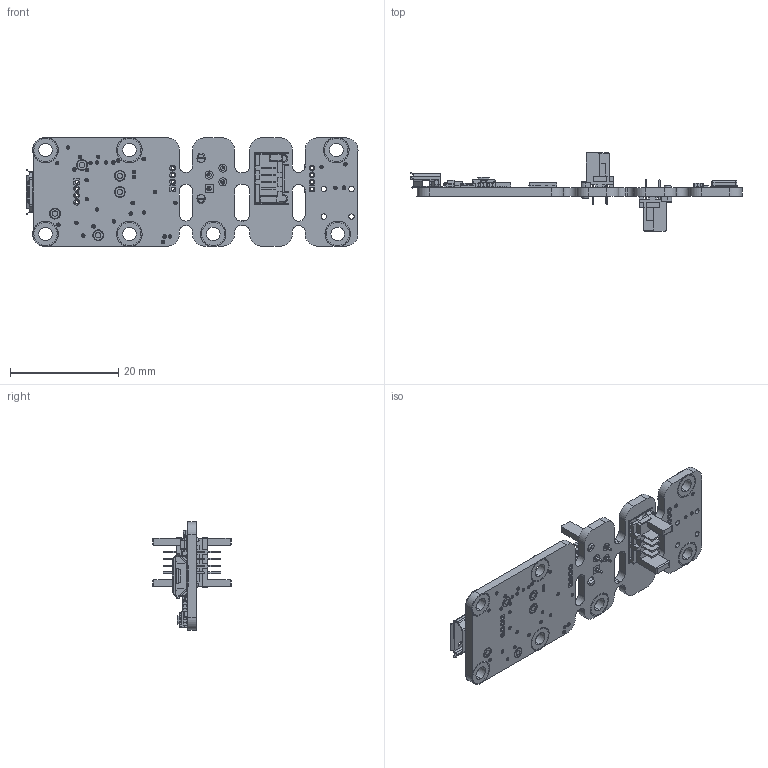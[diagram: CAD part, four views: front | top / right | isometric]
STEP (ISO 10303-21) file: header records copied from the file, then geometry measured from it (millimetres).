
FILE_DESCRIPTION (( 'STEP AP214' ), '1' );
FILE_NAME ('yoctometeo1.STEP', '2014-01-28T10:55:39', ( 'martinm' ), ( '' ), 'SwSTEP 2.0', 'SolidWorks 2008', '' );
FILE_SCHEMA (( 'AUTOMOTIVE_DESIGN' ));
Length unit declared in the file: millimetre
Products named in the file (26): PCB; C2; C9; C16; C18; C19; FLASH1; P5; PVSS; R1; R2; R3; R4; R5; R7; R8; R12; REG1; SENS1; SENS2; SW1; U1; USB1; YLED; iSENSE; yoctometeo1
Assembly tree (33 placements, depth 2):
  PVSS
  yoctometeo1
    SENS2
    YLED
    C19
    SW1
    C2
    C18  x3
    SENS1
    USB1
    C9  x6
    R7  x2
    R8
    R1
    R3
    R4
    R5
    PCB
    C16
    R2
    iSENSE
    P5  x2
    FLASH1
    U1
    R12
    REG1
Bounding box: 61.35 x 14.47 x 20.2 mm (x, y, z)
Volume: 1998.4 mm3; surface area: 4146.6 mm2
Topology: 45 solids, 45 shells, 5577 faces, 14384 edges, 9302 vertices
Faces by surface type: plane 3541, cylinder 1363, bspline 554, sphere 100, torus 15, cone 4
Entity records: 227346 total; most frequent: CARTESIAN_POINT 58964, ORIENTED_EDGE 25774, DIRECTION 23199, EDGE_CURVE 12887, LINE 9285, VECTOR 9285, VERTEX_POINT 8475, AXIS2_PLACEMENT_3D 6957
